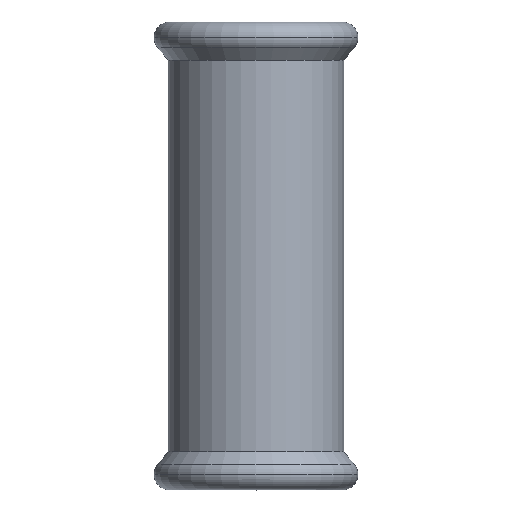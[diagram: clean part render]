
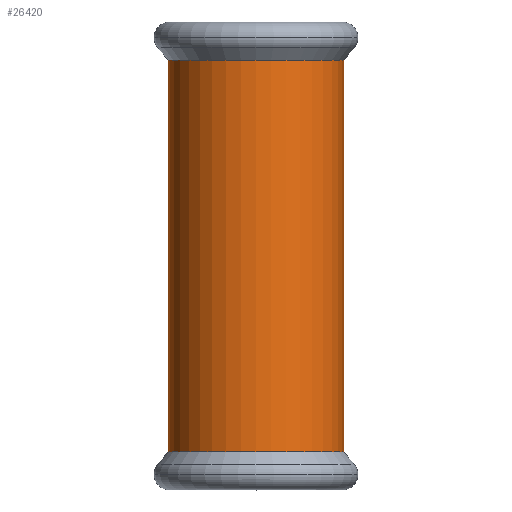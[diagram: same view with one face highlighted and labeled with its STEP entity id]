
A CAD part, top view. The second image highlights one B-rep face of the part: STEP entity #26420.
In plain terms, the highlighted cylindrical face has radius 19.15 mm (diameter 38.3 mm), a partial arc.
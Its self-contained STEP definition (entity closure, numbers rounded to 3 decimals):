
#1120=CARTESIAN_POINT('',(-269.361,214.189,0.));
#1130=VERTEX_POINT('',#1120);
#1310=CARTESIAN_POINT('',(-307.661,214.189,
0.));
#1320=VERTEX_POINT('',#1310);
#1350=CARTESIAN_POINT('',(-288.511,214.189,0.));
#1360=DIRECTION('',(0.,1.,0.));
#1370=DIRECTION('',(-1.,0.,0.));
#1380=AXIS2_PLACEMENT_3D('',#1350,#1360,#1370);
#1390=CIRCLE('',#1380,19.15);
#1450=CARTESIAN_POINT('',(-288.511,204.782,0.));
#1460=DIRECTION('',(0.,-1.,0.));
#1470=DIRECTION('',(-1.,0.,0.));
#1480=AXIS2_PLACEMENT_3D('',#1450,#1460,#1470);
#1490=CYLINDRICAL_SURFACE('',#1480,19.15);
#1500=CARTESIAN_POINT('',(-269.361,204.782,
0.));
#1510=DIRECTION('',(0.,-1.,0.));
#1520=VECTOR('',#1510,1.);
#1530=LINE('',#1500,#1520);
#1540=CARTESIAN_POINT('',(-269.361,128.655,
0.));
#1550=VERTEX_POINT('',#1540);
#1560=EDGE_CURVE('',#1130,#1550,#1530,.T.);
#1590=CARTESIAN_POINT('',(-307.661,204.782,0.));
#1600=DIRECTION('',(0.,-1.,0.));
#1610=VECTOR('',#1600,1.);
#1620=LINE('',#1590,#1610);
#1630=CARTESIAN_POINT('',(-307.661,128.655,0.));
#1640=VERTEX_POINT('',#1630);
#1650=EDGE_CURVE('',#1320,#1640,#1620,.T.);
#1670=CARTESIAN_POINT('',(-288.511,128.655,0.));
#1680=DIRECTION('',(0.,-1.,0.));
#1690=DIRECTION('',(1.,0.,0.));
#1700=AXIS2_PLACEMENT_3D('',#1670,#1680,#1690);
#1710=CIRCLE('',#1700,19.15);
#25790=EDGE_CURVE('',#1550,#1640,#1710,.T.);
#26350=EDGE_CURVE('',#1320,#1130,#1390,.T.);
#26360=ORIENTED_EDGE('',*,*,#26350,.F.);
#26370=ORIENTED_EDGE('',*,*,#1560,.F.);
#26380=ORIENTED_EDGE('',*,*,#25790,.F.);
#26390=ORIENTED_EDGE('',*,*,#1650,.T.);
#26400=EDGE_LOOP('',(#26390,#26380,#26370,#26360));
#26410=FACE_OUTER_BOUND('',#26400,.T.);
#26420=ADVANCED_FACE('',(#26410),#1490,.T.);
